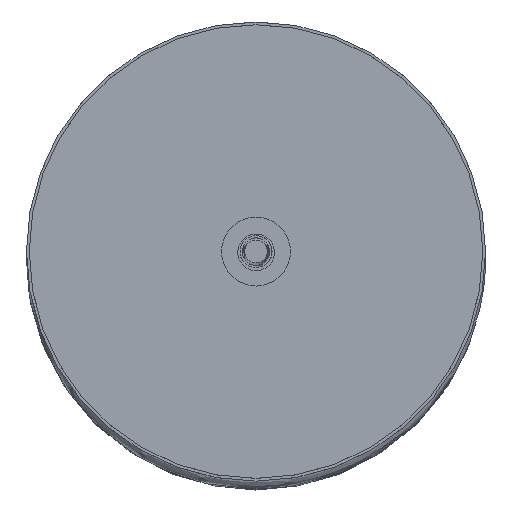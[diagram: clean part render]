
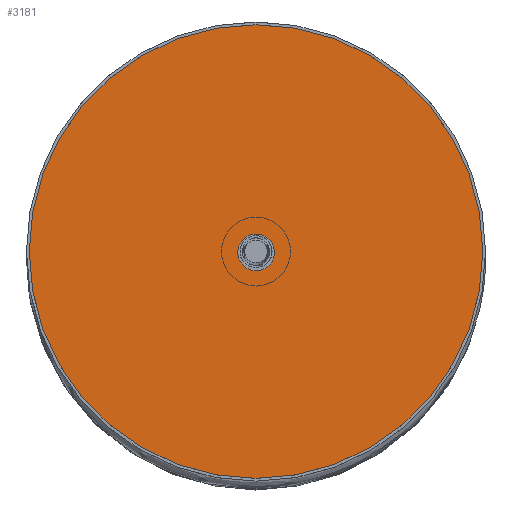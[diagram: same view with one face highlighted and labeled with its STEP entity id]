
A CAD part, top view. The second image highlights one B-rep face of the part: STEP entity #3181.
In plain terms, the highlighted planar face has unit normal (0, 0, 1).
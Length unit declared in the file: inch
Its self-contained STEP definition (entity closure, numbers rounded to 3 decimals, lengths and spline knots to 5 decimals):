
#64=FACE_BOUND('',#889,.T.);
#107=PLANE('',#3439);
#677=FACE_OUTER_BOUND('',#888,.T.);
#888=EDGE_LOOP('',(#2509));
#889=EDGE_LOOP('',(#2510));
#1054=CIRCLE('',#3434,0.2);
#1056=CIRCLE('',#3437,2.47);
#1443=VERTEX_POINT('',#8391);
#1445=VERTEX_POINT('',#8397);
#1829=EDGE_CURVE('',#1443,#1443,#1054,.T.);
#1832=EDGE_CURVE('',#1445,#1445,#1056,.F.);
#2509=ORIENTED_EDGE('',*,*,#1832,.T.);
#2510=ORIENTED_EDGE('',*,*,#1829,.T.);
#3181=ADVANCED_FACE('',(#677,#64),#107,.T.);
#3434=AXIS2_PLACEMENT_3D('',#8392,#3906,#3907);
#3437=AXIS2_PLACEMENT_3D('',#8398,#3913,#3914);
#3439=AXIS2_PLACEMENT_3D('',#8402,#3918,#3919);
#3906=DIRECTION('center_axis',(0.,0.,-1.));
#3907=DIRECTION('ref_axis',(1.,0.,0.));
#3913=DIRECTION('center_axis',(0.,0.,-1.));
#3914=DIRECTION('ref_axis',(1.,0.,0.));
#3918=DIRECTION('center_axis',(0.,0.,1.));
#3919=DIRECTION('ref_axis',(1.,0.,0.));
#8391=CARTESIAN_POINT('',(-0.19813,-0.00889,47.73));
#8392=CARTESIAN_POINT('Origin',(0.00187,-0.00889,
47.73));
#8397=CARTESIAN_POINT('',(-2.47,0.,47.73));
#8398=CARTESIAN_POINT('Origin',(0.,0.,47.73));
#8402=CARTESIAN_POINT('Origin',(0.,0.,47.73));
